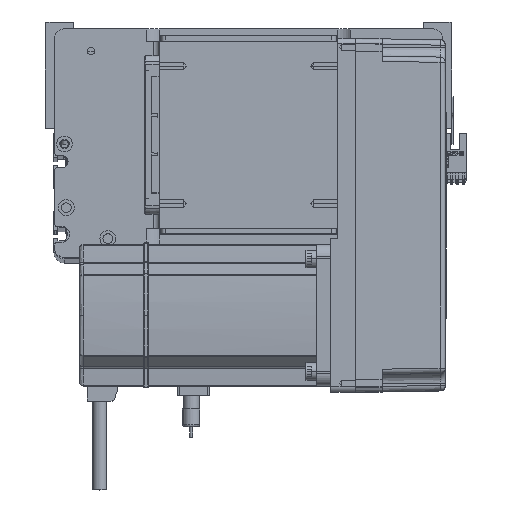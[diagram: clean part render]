
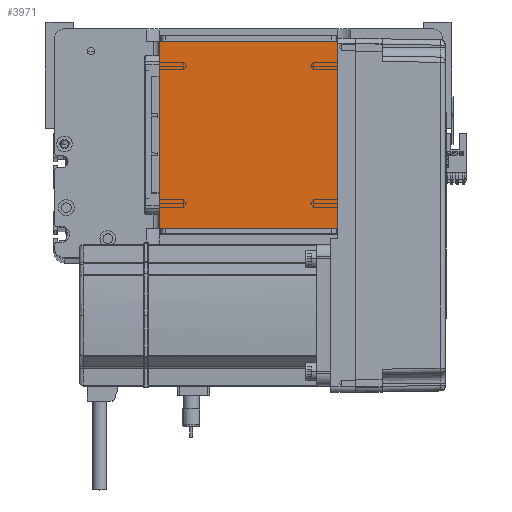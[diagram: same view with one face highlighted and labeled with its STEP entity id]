
A CAD part, top view. The second image highlights one B-rep face of the part: STEP entity #3971.
In plain terms, the highlighted planar face has unit normal (0, 0, 1).
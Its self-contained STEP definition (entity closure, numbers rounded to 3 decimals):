
#161 = VECTOR ( 'NONE', #28161, 1000. ) ;
#3971 = ADVANCED_FACE ( 'NONE', ( #20126 ), #4119, .T. ) ;
#4119 = PLANE ( 'NONE',  #10671 ) ;
#7223 = DIRECTION ( 'NONE',  ( 0., -1., 0. ) ) ;
#9689 = VECTOR ( 'NONE', #16988, 1000. ) ;
#10282 = LINE ( 'NONE', #19405, #161 ) ;
#10671 = AXIS2_PLACEMENT_3D ( 'NONE', #23917, #44788, #32141 ) ;
#12204 = EDGE_CURVE ( 'NONE', #22869, #35657, #32810, .T. ) ;
#13647 = VECTOR ( 'NONE', #48898, 1000. ) ;
#14429 = VECTOR ( 'NONE', #7223, 1000. ) ;
#16988 = DIRECTION ( 'NONE',  ( -1., 0., 0. ) ) ;
#17202 = EDGE_CURVE ( 'NONE', #18933, #22869, #47686, .T. ) ;
#18933 = VERTEX_POINT ( 'NONE', #29058 ) ;
#19133 = EDGE_LOOP ( 'NONE', ( #36250, #46201, #46729, #42492 ) ) ;
#19405 = CARTESIAN_POINT ( 'NONE',  ( 50.5, 122., 115. ) ) ;
#20126 = FACE_OUTER_BOUND ( 'NONE', #19133, .T. ) ;
#20355 = CARTESIAN_POINT ( 'NONE',  ( -50.5, 16., 115. ) ) ;
#22869 = VERTEX_POINT ( 'NONE', #44380 ) ;
#23917 = CARTESIAN_POINT ( 'NONE',  ( 0., 0., 115. ) ) ;
#25574 = CARTESIAN_POINT ( 'NONE',  ( -50.5, 122., 115. ) ) ;
#27534 = CARTESIAN_POINT ( 'NONE',  ( -50.5, 122., 115. ) ) ;
#28161 = DIRECTION ( 'NONE',  ( 0., 1., 0. ) ) ;
#29058 = CARTESIAN_POINT ( 'NONE',  ( -50.5, 122., 115. ) ) ;
#32141 = DIRECTION ( 'NONE',  ( 1., 0., 0. ) ) ;
#32557 = EDGE_CURVE ( 'NONE', #35657, #36492, #10282, .T. ) ;
#32810 = LINE ( 'NONE', #20355, #13647 ) ;
#35657 = VERTEX_POINT ( 'NONE', #39794 ) ;
#36250 = ORIENTED_EDGE ( 'NONE', *, *, #17202, .T. ) ;
#36492 = VERTEX_POINT ( 'NONE', #43367 ) ;
#37815 = LINE ( 'NONE', #25574, #9689 ) ;
#39794 = CARTESIAN_POINT ( 'NONE',  ( 50.5, 16., 115. ) ) ;
#42492 = ORIENTED_EDGE ( 'NONE', *, *, #43961, .T. ) ;
#43367 = CARTESIAN_POINT ( 'NONE',  ( 50.5, 122., 115. ) ) ;
#43961 = EDGE_CURVE ( 'NONE', #36492, #18933, #37815, .T. ) ;
#44380 = CARTESIAN_POINT ( 'NONE',  ( -50.5, 16., 115. ) ) ;
#44788 = DIRECTION ( 'NONE',  ( 0., 0., 1. ) ) ;
#46201 = ORIENTED_EDGE ( 'NONE', *, *, #12204, .T. ) ;
#46729 = ORIENTED_EDGE ( 'NONE', *, *, #32557, .T. ) ;
#47686 = LINE ( 'NONE', #27534, #14429 ) ;
#48898 = DIRECTION ( 'NONE',  ( 1., 0., 0. ) ) ;
